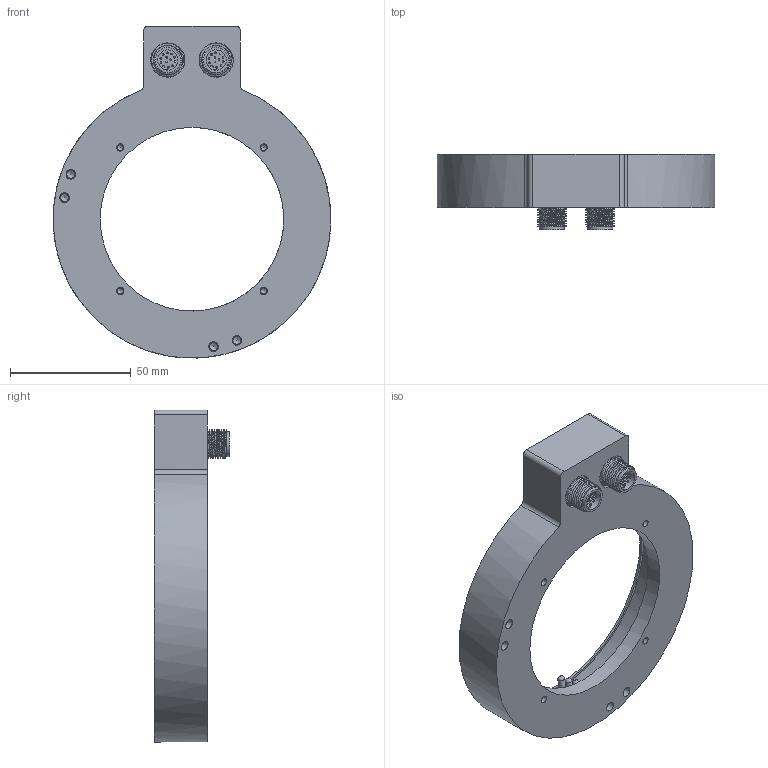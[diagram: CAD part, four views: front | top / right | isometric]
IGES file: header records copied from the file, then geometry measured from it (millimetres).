
Global section: file name: 153-13533_LM 100 xWK-24Q4-2L12; native system: Autodesk Inventor 2018; preprocessor: unknown; author: ss; date: 20180726.105026; units: millimetre
Bounding box: 115 x 31.3 x 137.45 mm (x, y, z)
Volume: 111168.5 mm3; surface area: 35597.9 mm2
Topology: 9 solids, 11 shells, 380 faces, 1117 edges, 818 vertices
Faces by surface type: bspline 380
